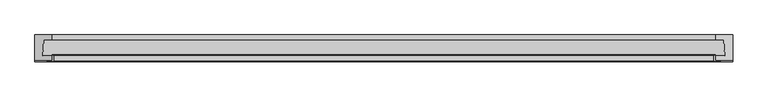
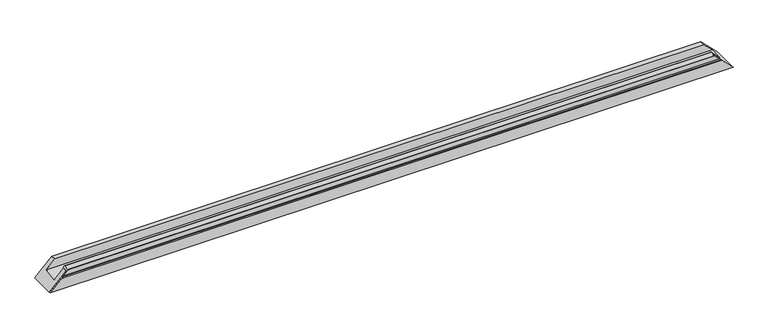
"""IFC4 building model written with IfcOpenShell, lengths in millimetres: proxy geometry, Weiku - Montante - Caixilho duplo 02.2.01.002 : Weiku - Montante - Caixilho duplo 02.2.01.002."""

import ifcopenshell
import ifcopenshell.guid

model = None  # the IFC model being written
_history = None  # IfcOwnerHistory: only IFC2X3 demands one
_inside = {}  # id of a spatial element -> (the spatial element, [elements in it])
_under = {}  # id of a project, library or spatial element -> (it, [spatial elements below it])
_declared = {}  # id of a project -> (the project, [libraries it declares])
_typed = {}  # id of a type object -> (the type object, [elements of that type])
_made_of = {}  # id of a material, layer set ... -> (it, [elements and type objects made of it])


def new_model(schema):
    """Start an empty IFC model of exactly this schema.

    Asked for "IFC4X3", IfcOpenShell would pick the latest addendum, in which some entities
    have other attributes; the version numbers below select the first issue.
    IFC2X3 requires an IfcOwnerHistory on every rooted entity: one is made here for all.
    """
    global model, _history
    if schema == "IFC4X3":
        model = ifcopenshell.file(schema_version=(4, 3, 0, 0))
    else:
        model = ifcopenshell.file(schema=schema)
    _inside.clear()
    _under.clear()
    _declared.clear()
    _typed.clear()
    _made_of.clear()
    _history = None
    if model.schema == "IFC2X3":
        org = make("IfcOrganization", Name="unknown")
        user = make(
            "IfcPersonAndOrganization",
            ThePerson=make("IfcPerson", FamilyName="unknown"),
            TheOrganization=org,
        )
        app = make(
            "IfcApplication",
            ApplicationDeveloper=org,
            Version="unknown",
            ApplicationFullName="unknown",
            ApplicationIdentifier="unknown",
        )
        _history = make(
            "IfcOwnerHistory",
            OwningUser=user,
            OwningApplication=app,
            ChangeAction="ADDED",
            CreationDate=0,
        )
    return model


def make(cls, **values):
    """One entity of the class cls with the attributes given. An attribute that is None is left unset."""
    return model.create_entity(
        cls, **{name: value for name, value in values.items() if value is not None}
    )


def rooted(cls, **values):
    """An entity with a GlobalId (a new one), such as an element, a storey or a relation."""
    return make(cls, GlobalId=ifcopenshell.guid.new(), OwnerHistory=_history, **values)


def si_unit(unit_type, name, prefix=None):
    """IfcSIUnit, for example si_unit("LENGTHUNIT", "METRE", prefix="MILLI")."""
    return make("IfcSIUnit", UnitType=unit_type, Prefix=prefix, Name=name)


def assignment(units):
    """IfcUnitAssignment: the units of a project."""
    return None if units is None else make("IfcUnitAssignment", Units=units)


def point(xyz):
    """IfcCartesianPoint."""
    return None if xyz is None else make("IfcCartesianPoint", Coordinates=xyz)


def direction(xyz):
    """IfcDirection."""
    return None if xyz is None else make("IfcDirection", DirectionRatios=xyz)


def frame(location, z_axis=None, x_axis=None):
    """IfcAxis2Placement3D, a coordinate frame: its origin and axes. An axis left out is left unset."""
    return make(
        "IfcAxis2Placement3D",
        Location=point(location),
        Axis=direction(z_axis),
        RefDirection=direction(x_axis),
    )


def origin():
    """The frame at (0, 0, 0) with its axes left unset."""
    return frame((0.0, 0.0, 0.0))


def place(relative_to, where):
    """IfcLocalPlacement: puts the frame where relative to a parent placement (None: the world)."""
    return make(
        "IfcLocalPlacement", PlacementRelTo=relative_to, RelativePlacement=where
    )


def context(
    kind, dimensions, precision=None, world=None, true_north=None, identifier=None
):
    """IfcGeometricRepresentationContext, for example the 3D "Model" context."""
    return make(
        "IfcGeometricRepresentationContext",
        ContextIdentifier=identifier,
        ContextType=kind,
        CoordinateSpaceDimension=dimensions,
        Precision=precision,
        WorldCoordinateSystem=world,
        TrueNorth=true_north,
    )


def project(units=None, contexts=None):
    """IfcProject with its units and contexts."""
    return rooted(
        "IfcProject",
        Name="project",
        RepresentationContexts=contexts,
        UnitsInContext=assignment(units),
    )


def spatial(cls, under=None, at=None, **own):
    """A site, building, storey or space (cls), placed at a placement, below another one or the project."""
    s = rooted(cls, ObjectPlacement=at, **own)
    if under is not None:
        _under.setdefault(under.id(), (under, []))[1].append(s)
    return s


def polyline(points):
    """IfcPolyline through the points."""
    return make("IfcPolyline", Points=[point(p) for p in points])


def ellipse_curve(where, semi_axis1, semi_axis2):
    """IfcEllipse in the frame where."""
    return make(
        "IfcEllipse", Position=where, SemiAxis1=semi_axis1, SemiAxis2=semi_axis2
    )


def faces_of(points, faces, orient=None, outer=None):
    """IfcFace entities. A face is a list of loops; a loop is a list of indices into points, from 0.

    orient and outer hold one flag for each loop. By default every Orientation is true, the
    first loop of a face is its IfcFaceOuterBound and the others are IfcFaceBound.
    """
    made = []
    for i, loops in enumerate(faces):
        bounds = []
        for j, loop in enumerate(loops):
            is_outer = j == 0 if outer is None else outer[i][j]
            bounds.append(
                make(
                    "IfcFaceOuterBound" if is_outer else "IfcFaceBound",
                    Bound=make("IfcPolyLoop", Polygon=[points[k] for k in loop]),
                    Orientation=True if orient is None else orient[i][j],
                )
            )
        made.append(make("IfcFace", Bounds=bounds))
    return made


def faceted_brep(points, faces, orient=None, outer=None, voids=None):
    """IfcFacetedBrep: a solid bounded by flat faces; with voids (closed shells), ...WithVoids."""
    shared = [point(p) for p in points]
    hull = make("IfcClosedShell", CfsFaces=faces_of(shared, faces, orient, outer))
    if voids is None:
        return make("IfcFacetedBrep", Outer=hull)
    return make(
        "IfcFacetedBrepWithVoids",
        Outer=hull,
        Voids=[
            make(cls, CfsFaces=faces_of(shared, fs, o, b)) for cls, fs, o, b in voids
        ],
    )


def shape(context_of_items, identifier, shape_type, items):
    """IfcShapeRepresentation: the items that make up one representation, for example the "Body"."""
    return make(
        "IfcShapeRepresentation",
        ContextOfItems=context_of_items,
        RepresentationIdentifier=identifier,
        RepresentationType=shape_type,
        Items=items,
    )


def source(mapping_origin, context_of_items, identifier, shape_type, items):
    """IfcRepresentationMap: a shape defined once, which mapped items show again and again."""
    return make(
        "IfcRepresentationMap",
        MappingOrigin=mapping_origin,
        MappedRepresentation=shape(context_of_items, identifier, shape_type, items),
    )


def transform(
    local_origin,
    x_axis=None,
    y_axis=None,
    z_axis=None,
    scale=None,
    scale2=None,
    scale3=None,
    uniform=True,
):
    """IfcCartesianTransformationOperator3D, or its non-uniform kind. x_axis, y_axis, z_axis: its Axis1, 2, 3."""
    if uniform:
        return make(
            "IfcCartesianTransformationOperator3D",
            Axis1=direction(x_axis),
            Axis2=direction(y_axis),
            LocalOrigin=point(local_origin),
            Scale=scale,
            Axis3=direction(z_axis),
        )
    return make(
        "IfcCartesianTransformationOperator3DnonUniform",
        Axis1=direction(x_axis),
        Axis2=direction(y_axis),
        LocalOrigin=point(local_origin),
        Scale=scale,
        Axis3=direction(z_axis),
        Scale2=scale2,
        Scale3=scale3,
    )


def mapped(mapping_source, mapping_target):
    """IfcMappedItem: shows the shape of a source again, moved by a transform."""
    return make(
        "IfcMappedItem", MappingSource=mapping_source, MappingTarget=mapping_target
    )


def made_of(thing, what):
    """Note that an element or type object is made of a material, layer set ...; save() writes the relation."""
    if what is not None:
        _made_of.setdefault(what.id(), (what, []))[1].append(thing)
    return thing


def element(
    cls,
    number,
    at=None,
    inside=None,
    cuts=None,
    type_object=None,
    material=None,
    context=None,
    identifier="Body",
    shape_type=None,
    held_by="IfcProductDefinitionShape",
    body=None,
    shapes=None,
    **own,
):
    """One element of the class cls, such as IfcWall. Its Tag is "e" and its number.

    at: its placement. inside: the storey or other place that contains it. cuts: it is an
    opening in that element (IfcRelVoidsElement). A single representation is given by context,
    identifier, shape_type and body (its items); several are given by shapes. held_by: the class
    of the entity that holds the representations. save() writes the other relations.
    """
    e = rooted(cls, Tag="e%d" % number, ObjectPlacement=at, **own)
    if body is not None:
        shapes = [shape(context, identifier, shape_type, body)]
    if shapes is not None:
        e.Representation = make(held_by, Representations=shapes)
    if inside is not None:
        _inside.setdefault(inside.id(), (inside, []))[1].append(e)
    if cuts is not None:
        rooted(
            "IfcRelVoidsElement", RelatingBuildingElement=cuts, RelatedOpeningElement=e
        )
    if type_object is not None:
        _typed.setdefault(type_object.id(), (type_object, []))[1].append(e)
    return made_of(e, material)


def aggregate(whole, parts):
    """IfcRelAggregates: a whole, such as a stair, and the parts it consists of."""
    return rooted("IfcRelAggregates", RelatingObject=whole, RelatedObjects=parts)


def save(model, path):
    """Write the relations noted so far, then the file.

    IfcRelAggregates (storeys below a building ...), IfcRelContainedInSpatialStructure (elements
    in a storey), IfcRelDefinesByType, IfcRelAssociatesMaterial and IfcRelDeclares: one each for
    every whole, place, type object, material and project.
    """
    for whole, parts in _under.values():
        aggregate(whole, parts)
    for where, things in _inside.values():
        rooted(
            "IfcRelContainedInSpatialStructure",
            RelatedElements=things,
            RelatingStructure=where,
        )
    for kind, things in _typed.values():
        rooted("IfcRelDefinesByType", RelatedObjects=things, RelatingType=kind)
    for what, things in _made_of.values():
        rooted("IfcRelAssociatesMaterial", RelatedObjects=things, RelatingMaterial=what)
    for by, libraries in _declared.values():
        rooted("IfcRelDeclares", RelatingContext=by, RelatedDefinitions=libraries)
    model.write(path)


def plane_surface(at):
    """IfcPlane: the flat surface through the origin of the frame at, square to its z axis."""
    return make("IfcPlane", Position=at)


def cylinder_surface(at, radius):
    """IfcCylindricalSurface: all points at the distance radius from the z axis of the frame at."""
    return make("IfcCylindricalSurface", Position=at, Radius=radius)


def revolved_surface(curve, axis_point, axis_direction):
    """IfcSurfaceOfRevolution: the curve turned about the line through axis_point along axis_direction."""
    return make(
        "IfcSurfaceOfRevolution",
        SweptCurve=make("IfcArbitraryOpenProfileDef", ProfileType="CURVE", Curve=curve),
        AxisPosition=make("IfcAxis1Placement", Location=point(axis_point), Axis=direction(axis_direction)),
    )


def advanced_brep(points, edges, surfaces, faces):
    """IfcAdvancedBrep: a solid bounded by faces that lie on surfaces and meet in shared edges.

    An edge is (start, end): straight between two places in points (the first is 0);
    or (start, end, curve); or (start, end, curve, False) where it runs against its curve.
    A face is (place in surfaces, loops), or (place, loops, False) where it looks against
    its surface's normal. A loop lists edges by number (the first is 1), with a minus sign
    where the edge is run from its end to its start. The first loop is the outer one.
    """
    corners = [point(p) for p in points]
    vertices = [make("IfcVertexPoint", VertexGeometry=c) for c in corners]
    made = []
    for start, end, *more in edges:
        made.append(
            make(
                "IfcEdgeCurve",
                EdgeStart=vertices[start],
                EdgeEnd=vertices[end],
                EdgeGeometry=more[0] if more else make("IfcPolyline", Points=[corners[start], corners[end]]),
                SameSense=more[1] if len(more) > 1 else True,
            )
        )
    hull = []
    for where, loops, *sense in faces:
        bounds = []
        for j, loop in enumerate(loops):
            ring = [make("IfcOrientedEdge", EdgeElement=made[abs(k) - 1], Orientation=k > 0) for k in loop]
            bounds.append(
                make(
                    "IfcFaceOuterBound" if j == 0 else "IfcFaceBound",
                    Bound=make("IfcEdgeLoop", EdgeList=ring),
                    Orientation=True,
                )
            )
        hull.append(make("IfcAdvancedFace", Bounds=bounds, FaceSurface=surfaces[where], SameSense=sense[0] if sense else True))
    return make("IfcAdvancedBrep", Outer=make("IfcClosedShell", CfsFaces=hull))


def generic_models_ea8e53a9(model_context):
    return source(origin(), model_context, "Body", "SolidModel", [
        advanced_brep(
        [(-995.5, -60.0, 52.0), (-995.5, -77.0, 52.0), (-1047.5, -77.0, 0.0), (-1047.5, -81.0, 0.0), (-1012.5, -81.0, 35.0), (-1009.5, -80.0, 38.0), (-1006.5, -79.0, 41.0), (-992.5, -79.0, 55.0), (-991.5, -78.0, 56.0), (-991.5, -61.0, 56.0), (-992.5, -60.0, 55.0), (992.5, -60.0, 55.0), (995.5, -60.0, 52.0), (991.5, -61.0, 56.0), (991.5, -78.0, 56.0), (992.5, -79.0, 55.0), (1006.5, -79.0, 41.0), (1009.5, -80.0, 38.0), (1012.5, -81.0, 35.0), (1047.5, -81.0, 0.0), (1047.5, -77.0, 0.0), (995.5, -77.0, 52.0)],
        [
            (0, 1),
            (1, 2),
            (2, 3),
            (3, 4),
            (4, 5, ellipse_curve(frame((-1012.5, -76.0, 35.0), z_axis=(-0.7071067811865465, 0.0, 0.7071067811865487), x_axis=(-0.7071067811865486, 0.0, -0.7071067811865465)), 7.0710678, 5.0)),
            (5, 6, ellipse_curve(frame((-1006.5, -84.0, 41.0), z_axis=(0.7071067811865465, 0.0, -0.7071067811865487), x_axis=(0.7071067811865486, 0.0, 0.7071067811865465)), 7.0710678, 5.0)),
            (6, 7),
            (7, 8, ellipse_curve(frame((-992.5, -78.0, 55.0), z_axis=(-0.7071067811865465, 0.0, 0.7071067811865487), x_axis=(-0.7071067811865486, 0.0, -0.7071067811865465)), 1.4142136, 1.0)),
            (8, 9),
            (9, 10, ellipse_curve(frame((-992.5, -61.0, 55.0), z_axis=(-0.7071067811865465, 0.0, 0.7071067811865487), x_axis=(-0.7071067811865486, 0.0, -0.7071067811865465)), 1.4142136, 1.0)),
            (10, 0),
            (10, 11),
            (11, 12),
            (12, 0),
            (9, 13),
            (13, 11, ellipse_curve(frame((992.5, -61.0, 55.0), z_axis=(-0.7071067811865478, 0.0, -0.7071067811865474), x_axis=(-0.7071067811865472, 0.0, 0.7071067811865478)), 1.4142136, 1.0)),
            (8, 14),
            (14, 13),
            (7, 15),
            (15, 14, ellipse_curve(frame((992.5, -78.0, 55.0), z_axis=(-0.7071067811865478, 0.0, -0.7071067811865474), x_axis=(-0.7071067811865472, 0.0, 0.7071067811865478)), 1.4142136, 1.0)),
            (6, 16),
            (16, 15),
            (5, 17),
            (17, 16, ellipse_curve(frame((1006.5, -84.0, 41.0), z_axis=(0.7071067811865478, 0.0, 0.7071067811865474), x_axis=(0.7071067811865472, 0.0, -0.7071067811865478)), 7.0710678, 5.0)),
            (4, 18),
            (18, 17, ellipse_curve(frame((1012.5, -76.0, 35.0), z_axis=(-0.7071067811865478, 0.0, -0.7071067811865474), x_axis=(-0.7071067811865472, 0.0, 0.7071067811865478)), 7.0710678, 5.0)),
            (19, 18),
            (3, 19),
            (2, 20),
            (20, 19),
            (1, 21),
            (21, 20),
            (12, 21),
        ],
        [
            plane_surface(frame((-1047.5, 0.0, 0.0), z_axis=(-0.7071067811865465, 0.0, 0.7071067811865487), x_axis=(0.0, -1.0, 0.0))),
            plane_surface(frame((-1047.5, -60.0, 52.0), z_axis=(0.0, 1.0, 0.0), x_axis=(1.0, 0.0, 0.0))),
            cylinder_surface(frame((-1047.5, -61.0, 55.0), z_axis=(-1.0, 0.0, 0.0), x_axis=(0.0, -1.0, 0.0)), 1.0),
            plane_surface(frame((-1047.5, -61.0, 56.0), z_axis=(0.0, 0.0, 1.0), x_axis=(1.0, 0.0, 0.0))),
            cylinder_surface(frame((-1047.5, -78.0, 55.0), z_axis=(-1.0, 0.0, 0.0), x_axis=(0.0, -1.0, 0.0)), 1.0),
            plane_surface(frame((-1047.5, -79.0, 55.0), z_axis=(0.0, -1.0, 0.0), x_axis=(1.0, 0.0, 0.0))),
            revolved_surface(polyline([(1011.4999999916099, -89.0, 41.0), (-1011.4999999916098, -89.0, 41.0)]), (-1047.5, -84.0, 41.0), (1.0, 0.0, 0.0)),
            cylinder_surface(frame((-1047.5, -76.0, 35.0), z_axis=(-1.0, 0.0, 0.0), x_axis=(0.0, -1.0, 0.0)), 5.0),
            plane_surface(frame((-1047.5, -81.0, 35.0), z_axis=(0.0, -1.0, 0.0), x_axis=(1.0, 0.0, 0.0))),
            plane_surface(frame((-1047.5, -81.0, 0.0), z_axis=(0.0, 0.0, -1.0), x_axis=(1.0, 0.0, 0.0))),
            plane_surface(frame((-1047.5, -77.0, 0.0), z_axis=(0.0, 1.0, 0.0), x_axis=(1.0, 0.0, 0.0))),
            plane_surface(frame((-1047.5, -77.0, 52.0), z_axis=(0.0, 0.0, -1.0), x_axis=(1.0, 0.0, 0.0))),
            plane_surface(frame((977.5, 0.0, 70.0), z_axis=(0.7071067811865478, 0.0, 0.7071067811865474), x_axis=(0.0, -1.0, 0.0))),
        ],
        [
            (0, [[1, 2, 3, 4, 5, 6, 7, 8, 9, 10, 11]]),
            (1, [[12, 13, 14, -11]]),
            (2, [[15, 16, -12, -10]]),
            (3, [[17, 18, -15, -9]]),
            (4, [[19, 20, -17, -8]]),
            (5, [[21, 22, -19, -7]]),
            (6, [[23, 24, -21, -6]]),
            (7, [[25, 26, -23, -5]]),
            (8, [[27, -25, -4, 28]]),
            (9, [[-3, 29, 30, -28]]),
            (10, [[-2, 31, 32, -29]]),
            (11, [[-14, 33, -31, -1]]),
            (12, [[-16, -18, -20, -22, -24, -26, -27, -30, -32, -33, -13]]),
        ],
    ),
        faceted_brep([(-1021.5, -15.0, 26.0), (1021.5, -15.0, 26.0), (995.5, -15.0, 52.0), (-995.5, -15.0, 52.0), (-1023.7229744, -62.0, 23.7770256), (1023.7229744, -62.0, 23.7770256), (-995.5, -62.0, 52.0), (995.5, -62.0, 52.0), (-995.5, -77.0, 52.0), (995.5, -77.0, 52.0), (1047.5, -77.0, 0.0), (-1047.5, -77.0, 0.0), (-1047.5, 0.0, 0.0), (1047.5, 0.0, 0.0), (-995.5, 0.0, 52.0), (995.5, 0.0, 52.0)], [[[0, 1, 2, 3]], [[4, 5, 1, 0]], [[6, 7, 5, 4]], [[8, 9, 7, 6]], [[10, 9, 8, 11]], [[11, 12, 13, 10]], [[12, 14, 15, 13]], [[3, 2, 15, 14]], [[3, 14, 12, 11, 8, 6, 4, 0]], [[1, 5, 7, 9, 10, 13, 15, 2]]]),
    ])


if __name__ == "__main__":
    model = new_model("IFC4")
    model_context = context("Model", 3, world=origin())
    ifc_project = project(units=[si_unit("LENGTHUNIT", "METRE", prefix="MILLI")], contexts=[model_context])
    site = spatial("IfcSite", under=ifc_project)
    building = spatial("IfcBuilding", under=site)
    placement = place(None, origin())
    generic_models_shape = generic_models_ea8e53a9(model_context)
    element("IfcBuildingElementProxy", 1, Name="Weiku - Montante - Caixilho duplo 02.2.01.002 : Weiku - Montante - Caixilho duplo 02.2.01.002", ObjectType="Weiku - Montante - Caixilho duplo 02.2.01.002 : Weiku - Montante - Caixilho duplo 02.2.01.002", at=placement, inside=building, context=model_context, shape_type="MappedRepresentation", body=[
        mapped(generic_models_shape, transform((0.0, 0.0, 0.0), x_axis=(1.0, 0.0, 0.0), y_axis=(0.0, 1.0, 0.0), z_axis=(0.0, 0.0, 1.0))),
    ])
    save(model, "model.ifc")
